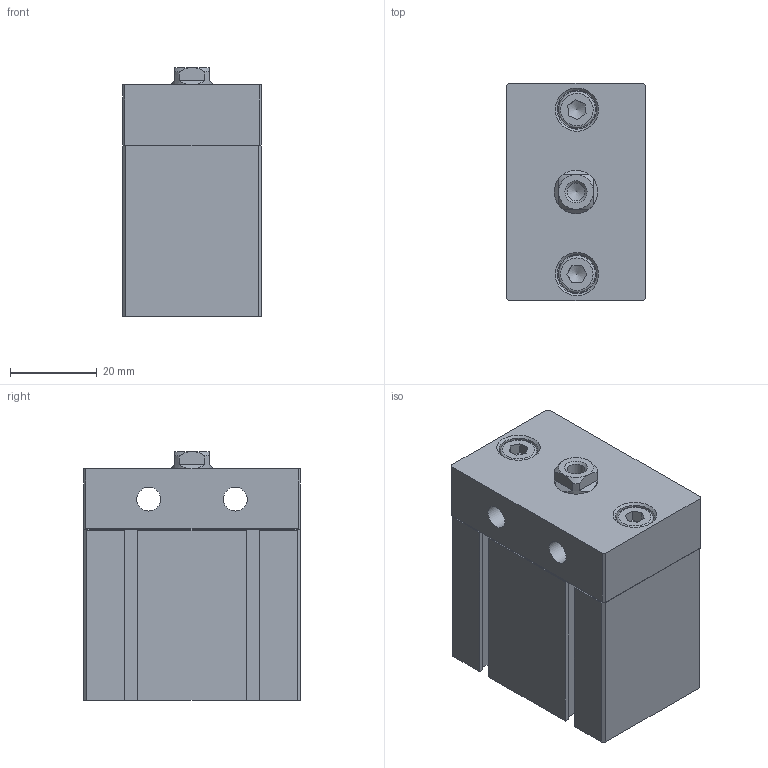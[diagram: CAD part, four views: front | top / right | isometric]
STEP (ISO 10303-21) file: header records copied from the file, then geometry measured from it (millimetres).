
FILE_DESCRIPTION((''),'2;1');
FILE_NAME('I:\3D電子目錄\氣缸\ND\ND\ND25\ND25x10.stp','2007-07-24T19:00:59',('Administrator'),(''),'Autodesk Inventor 11','Autodesk Inventor 11','');
FILE_SCHEMA(('AUTOMOTIVE_DESIGN { 1 0 10303 214 1 1 1 1 }'));
Length unit declared in the file: millimetre
Products named in the file (4): ND25; ISO 4762 M5 x 12; R 形環 28
Assembly tree (4 placements, depth 2):
  ND25
    ND25
    ISO 4762 M5 x 12  x2
    R 形環 28
Bounding box: 32 x 50.1 x 57.5 mm (x, y, z)
Volume: 77812.4 mm3; surface area: 18940.3 mm2
Topology: 5 solids, 5 shells, 167 faces, 389 edges, 247 vertices
Faces by surface type: plane 105, cylinder 25, cone 18, bspline 16, torus 3
Full cylindrical faces by diameter (mm): 1.5 x2, 1.9 x2, 5 x2, 5.5 x2, 8.5 x2, 9 x2, 17 x1, 28 x1, 29.4 x1
Entity records: 4347 total; most frequent: CARTESIAN_POINT 939, DIRECTION 678, ORIENTED_EDGE 626, EDGE_CURVE 313, AXIS2_PLACEMENT_3D 234, VERTEX_POINT 221, EDGE_LOOP 214, VECTOR 210
